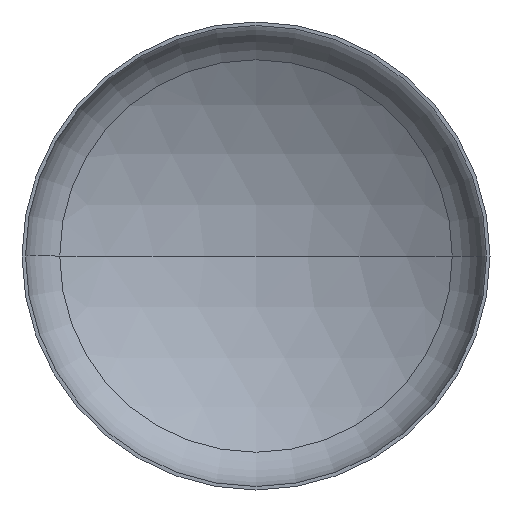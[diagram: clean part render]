
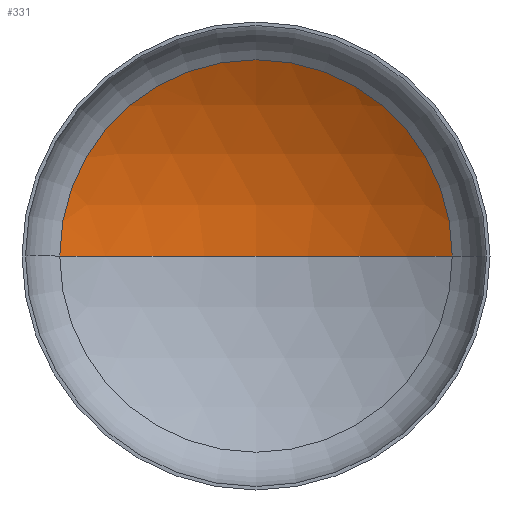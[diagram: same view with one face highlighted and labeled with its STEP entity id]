
A CAD part, front view. The second image highlights one B-rep face of the part: STEP entity #331.
In plain terms, the highlighted spherical face has radius 6400 mm.
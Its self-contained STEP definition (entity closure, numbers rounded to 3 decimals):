
#5 = AXIS2_PLACEMENT_3D ( 'NONE', #334, #138, #93 ) ;
#25 = ORIENTED_EDGE ( 'NONE', *, *, #78, .T. ) ;
#44 = AXIS2_PLACEMENT_3D ( 'NONE', #173, #174, #176 ) ;
#46 = AXIS2_PLACEMENT_3D ( 'NONE', #210, #214, #202 ) ;
#48 = AXIS2_PLACEMENT_3D ( 'NONE', #191, #304, #303 ) ;
#68 = SPHERICAL_SURFACE ( 'NONE', #5, 6400. ) ;
#77 = EDGE_CURVE ( 'NONE', #119, #87, #408, .T. ) ;
#78 = EDGE_CURVE ( 'NONE', #103, #119, #349, .T. ) ;
#80 = EDGE_CURVE ( 'NONE', #103, #87, #229, .T. ) ;
#87 = VERTEX_POINT ( 'NONE', #201 ) ;
#93 = DIRECTION ( 'NONE',  ( -1., 0., 0. ) ) ;
#103 = VERTEX_POINT ( 'NONE', #206 ) ;
#119 = VERTEX_POINT ( 'NONE', #312 ) ;
#129 = ORIENTED_EDGE ( 'NONE', *, *, #80, .F. ) ;
#138 = DIRECTION ( 'NONE',  ( 0., 0., -1. ) ) ;
#173 = CARTESIAN_POINT ( 'NONE',  ( 0., -4282.817, 0. ) ) ;
#174 = DIRECTION ( 'NONE',  ( 0., 0., 1. ) ) ;
#176 = DIRECTION ( 'NONE',  ( 1., 0., 0. ) ) ;
#191 = CARTESIAN_POINT ( 'NONE',  ( 0., 1167.479, 0. ) ) ;
#201 = CARTESIAN_POINT ( 'NONE',  ( -3354.739, 1167.479, 0. ) ) ;
#202 = DIRECTION ( 'NONE',  ( -1., 0., 0. ) ) ;
#206 = CARTESIAN_POINT ( 'NONE',  ( 0., 2117.183, 0. ) ) ;
#207 = EDGE_LOOP ( 'NONE', ( #129, #25, #315 ) ) ;
#210 = CARTESIAN_POINT ( 'NONE',  ( 0., -4282.817, 0. ) ) ;
#214 = DIRECTION ( 'NONE',  ( 0., 0., -1. ) ) ;
#229 = CIRCLE ( 'NONE', #44, 6400. ) ;
#303 = DIRECTION ( 'NONE',  ( 1., 0., 0. ) ) ;
#304 = DIRECTION ( 'NONE',  ( 0., -1., 0. ) ) ;
#312 = CARTESIAN_POINT ( 'NONE',  ( 3354.739, 1167.479, 0. ) ) ;
#315 = ORIENTED_EDGE ( 'NONE', *, *, #77, .T. ) ;
#331 = ADVANCED_FACE ( 'NONE', ( #385 ), #68, .F. ) ;
#334 = CARTESIAN_POINT ( 'NONE',  ( 0., -4282.817, 0. ) ) ;
#349 = CIRCLE ( 'NONE', #46, 6400. ) ;
#385 = FACE_OUTER_BOUND ( 'NONE', #207, .T. ) ;
#408 = CIRCLE ( 'NONE', #48, 3354.739 ) ;
